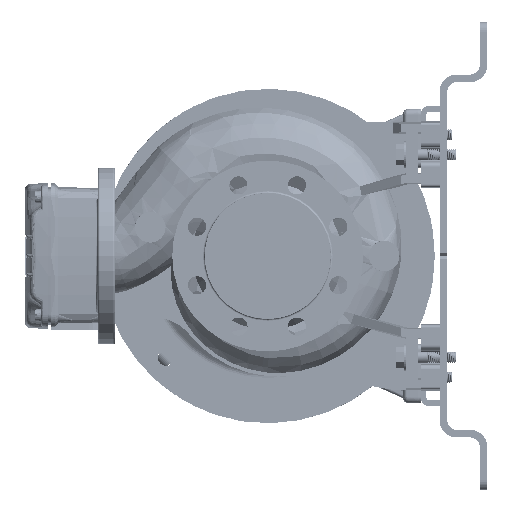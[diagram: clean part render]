
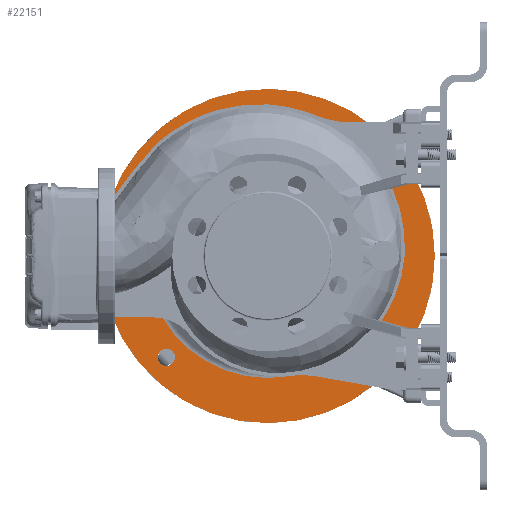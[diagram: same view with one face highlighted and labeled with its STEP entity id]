
A CAD part, left-side view. The second image highlights one B-rep face of the part: STEP entity #22151.
In plain terms, the highlighted planar face has unit normal (-1, 0, 0).
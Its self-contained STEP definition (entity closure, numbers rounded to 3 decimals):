
#1424 = CARTESIAN_POINT ( 'NONE',  ( 224., 106.066, 106.067 ) ) ;
#1925 = CARTESIAN_POINT ( 'NONE',  ( 224., 106.066, -106.112 ) ) ;
#2730 = EDGE_LOOP ( 'NONE', ( #262227, #16247 ) ) ;
#4688 = VERTEX_POINT ( 'NONE', #227987 ) ;
#7345 = ORIENTED_EDGE ( 'NONE', *, *, #45220, .T. ) ;
#12159 = DIRECTION ( 'NONE',  ( 0., 0., -1. ) ) ;
#12282 = ORIENTED_EDGE ( 'NONE', *, *, #203013, .T. ) ;
#12709 = EDGE_LOOP ( 'NONE', ( #136063, #72712 ) ) ;
#12722 = VERTEX_POINT ( 'NONE', #32267 ) ;
#15221 = AXIS2_PLACEMENT_3D ( 'NONE', #58890, #214252, #211404 ) ;
#15348 = AXIS2_PLACEMENT_3D ( 'NONE', #1424, #90849, #290144 ) ;
#16247 = ORIENTED_EDGE ( 'NONE', *, *, #21446, .F. ) ;
#16493 = DIRECTION ( 'NONE',  ( 1., 0., 0. ) ) ;
#17396 = AXIS2_PLACEMENT_3D ( 'NONE', #101310, #126205, #99899 ) ;
#19384 = EDGE_CURVE ( 'NONE', #269524, #93706, #190431, .T. ) ;
#21446 = EDGE_CURVE ( 'NONE', #150019, #203867, #109539, .T. ) ;
#22151 = ADVANCED_FACE ( 'NONE', ( #104179, #192152, #145231, #55920, #234703, #193624 ), #146713, .T. ) ;
#22726 = CIRCLE ( 'NONE', #205403, 9. ) ;
#24125 = EDGE_CURVE ( 'NONE', #91599, #165088, #159266, .T. ) ;
#32267 = CARTESIAN_POINT ( 'NONE',  ( 224., 106.066, 115.067 ) ) ;
#33125 = CARTESIAN_POINT ( 'NONE',  ( 224., -106.004, 97.067 ) ) ;
#34135 = CIRCLE ( 'NONE', #52960, 9. ) ;
#36209 = ORIENTED_EDGE ( 'NONE', *, *, #126699, .T. ) ;
#37116 = DIRECTION ( 'NONE',  ( 0., 0., -1. ) ) ;
#38570 = DIRECTION ( 'NONE',  ( 1., 0., 0. ) ) ;
#45220 = EDGE_CURVE ( 'NONE', #165088, #84668, #240030, .T. ) ;
#51596 = CIRCLE ( 'NONE', #252842, 23.5 ) ;
#52346 = ORIENTED_EDGE ( 'NONE', *, *, #24125, .T. ) ;
#52883 = CIRCLE ( 'NONE', #15348, 9. ) ;
#52960 = AXIS2_PLACEMENT_3D ( 'NONE', #89200, #180075, #204915 ) ;
#53069 = DIRECTION ( 'NONE',  ( 0., 0., -1. ) ) ;
#53924 = EDGE_LOOP ( 'NONE', ( #52346, #7345, #36209, #182512 ) ) ;
#55920 = FACE_BOUND ( 'NONE', #270302, .T. ) ;
#56254 = CARTESIAN_POINT ( 'NONE',  ( 224., 0.031, -175.022 ) ) ;
#56411 = AXIS2_PLACEMENT_3D ( 'NONE', #1925, #205623, #202759 ) ;
#57052 = VERTEX_POINT ( 'NONE', #158941 ) ;
#57251 = DIRECTION ( 'NONE',  ( 1., 0., 0. ) ) ;
#57273 = AXIS2_PLACEMENT_3D ( 'NONE', #146714, #187823, #53069 ) ;
#58890 = CARTESIAN_POINT ( 'NONE',  ( 224., -106.004, -106.112 ) ) ;
#61960 = CARTESIAN_POINT ( 'NONE',  ( 224., 0.031, -0.022 ) ) ;
#65018 = CARTESIAN_POINT ( 'NONE',  ( 224., 0.031, 127.657 ) ) ;
#68696 = ORIENTED_EDGE ( 'NONE', *, *, #165759, .T. ) ;
#72712 = ORIENTED_EDGE ( 'NONE', *, *, #107727, .T. ) ;
#72799 = CARTESIAN_POINT ( 'NONE',  ( 224., -109.967, -0.022 ) ) ;
#75634 = DIRECTION ( 'NONE',  ( 1., 0., 0. ) ) ;
#76517 = CIRCLE ( 'NONE', #240405, 9. ) ;
#83702 = DIRECTION ( 'NONE',  ( 0., 0., -1. ) ) ;
#84668 = VERTEX_POINT ( 'NONE', #65018 ) ;
#86876 = CARTESIAN_POINT ( 'NONE',  ( 224., 0.031, -0.022 ) ) ;
#89200 = CARTESIAN_POINT ( 'NONE',  ( 224., 106.066, -106.112 ) ) ;
#90801 = CARTESIAN_POINT ( 'NONE',  ( 224., -126.559, 16.619 ) ) ;
#90849 = DIRECTION ( 'NONE',  ( 1., 0., 0. ) ) ;
#91599 = VERTEX_POINT ( 'NONE', #251659 ) ;
#93706 = VERTEX_POINT ( 'NONE', #33125 ) ;
#99899 = DIRECTION ( 'NONE',  ( 0., 0., -1. ) ) ;
#100949 = VERTEX_POINT ( 'NONE', #248289 ) ;
#101310 = CARTESIAN_POINT ( 'NONE',  ( 224., -106.004, 106.067 ) ) ;
#102093 = EDGE_LOOP ( 'NONE', ( #12282, #68696 ) ) ;
#102098 = CARTESIAN_POINT ( 'NONE',  ( 224., 106.066, -97.112 ) ) ;
#104179 = FACE_BOUND ( 'NONE', #102093, .T. ) ;
#104713 = CIRCLE ( 'NONE', #287193, 127.679 ) ;
#107727 = EDGE_CURVE ( 'NONE', #4688, #156880, #76517, .T. ) ;
#109539 = CIRCLE ( 'NONE', #170381, 175. ) ;
#120246 = CARTESIAN_POINT ( 'NONE',  ( 224., -106.004, -97.112 ) ) ;
#121439 = AXIS2_PLACEMENT_3D ( 'NONE', #280063, #282957, #236196 ) ;
#124707 = DIRECTION ( 'NONE',  ( 0., 0., -1. ) ) ;
#126134 = CARTESIAN_POINT ( 'NONE',  ( 224., 0.031, -0.022 ) ) ;
#126205 = DIRECTION ( 'NONE',  ( -1., 0., 0. ) ) ;
#126699 = EDGE_CURVE ( 'NONE', #84668, #251002, #104713, .T. ) ;
#128970 = CIRCLE ( 'NONE', #199320, 9. ) ;
#135809 = AXIS2_PLACEMENT_3D ( 'NONE', #143832, #146727, #83702 ) ;
#136063 = ORIENTED_EDGE ( 'NONE', *, *, #183046, .T. ) ;
#141613 = CIRCLE ( 'NONE', #15221, 9. ) ;
#143832 = CARTESIAN_POINT ( 'NONE',  ( 224., 0.031, -0.022 ) ) ;
#144467 = DIRECTION ( 'NONE',  ( 0., 0., -1. ) ) ;
#145231 = FACE_OUTER_BOUND ( 'NONE', #2730, .T. ) ;
#146713 = PLANE ( 'NONE',  #121439 ) ;
#146714 = CARTESIAN_POINT ( 'NONE',  ( 224., 0.031, -0.022 ) ) ;
#146727 = DIRECTION ( 'NONE',  ( 1., 0., 0. ) ) ;
#148660 = CARTESIAN_POINT ( 'NONE',  ( 224., 0.031, 174.978 ) ) ;
#150019 = VERTEX_POINT ( 'NONE', #148660 ) ;
#156880 = VERTEX_POINT ( 'NONE', #120246 ) ;
#158941 = CARTESIAN_POINT ( 'NONE',  ( 224., 106.066, 97.067 ) ) ;
#159266 = CIRCLE ( 'NONE', #135809, 127.679 ) ;
#161913 = CARTESIAN_POINT ( 'NONE',  ( 224., -106.004, 106.067 ) ) ;
#162190 = DIRECTION ( 'NONE',  ( 1., 0., 0. ) ) ;
#165088 = VERTEX_POINT ( 'NONE', #200038 ) ;
#165759 = EDGE_CURVE ( 'NONE', #12722, #57052, #128970, .T. ) ;
#170381 = AXIS2_PLACEMENT_3D ( 'NONE', #126134, #57251, #124707 ) ;
#171140 = EDGE_LOOP ( 'NONE', ( #278637, #175476 ) ) ;
#173535 = EDGE_CURVE ( 'NONE', #100949, #260460, #34135, .T. ) ;
#175476 = ORIENTED_EDGE ( 'NONE', *, *, #19384, .F. ) ;
#180075 = DIRECTION ( 'NONE',  ( -1., 0., 0. ) ) ;
#182512 = ORIENTED_EDGE ( 'NONE', *, *, #246713, .T. ) ;
#183046 = EDGE_CURVE ( 'NONE', #156880, #4688, #141613, .T. ) ;
#186811 = DIRECTION ( 'NONE',  ( 0., 0., -1. ) ) ;
#187589 = CIRCLE ( 'NONE', #56411, 9. ) ;
#187823 = DIRECTION ( 'NONE',  ( 1., 0., 0. ) ) ;
#190431 = CIRCLE ( 'NONE', #17396, 9. ) ;
#192152 = FACE_BOUND ( 'NONE', #171140, .T. ) ;
#193624 = FACE_BOUND ( 'NONE', #53924, .T. ) ;
#197063 = EDGE_CURVE ( 'NONE', #203867, #150019, #274806, .T. ) ;
#199320 = AXIS2_PLACEMENT_3D ( 'NONE', #231095, #75634, #144467 ) ;
#200038 = CARTESIAN_POINT ( 'NONE',  ( 224., 0.031, -127.702 ) ) ;
#202759 = DIRECTION ( 'NONE',  ( 0., 0., 1. ) ) ;
#203013 = EDGE_CURVE ( 'NONE', #57052, #12722, #52883, .T. ) ;
#203867 = VERTEX_POINT ( 'NONE', #56254 ) ;
#204915 = DIRECTION ( 'NONE',  ( 0., 0., 1. ) ) ;
#205403 = AXIS2_PLACEMENT_3D ( 'NONE', #161913, #251335, #186811 ) ;
#205623 = DIRECTION ( 'NONE',  ( -1., 0., 0. ) ) ;
#207176 = ORIENTED_EDGE ( 'NONE', *, *, #209040, .F. ) ;
#209040 = EDGE_CURVE ( 'NONE', #260460, #100949, #187589, .T. ) ;
#211404 = DIRECTION ( 'NONE',  ( 0., 0., 1. ) ) ;
#214252 = DIRECTION ( 'NONE',  ( 1., 0., 0. ) ) ;
#216676 = ORIENTED_EDGE ( 'NONE', *, *, #173535, .F. ) ;
#223861 = DIRECTION ( 'NONE',  ( 0., 0., 1. ) ) ;
#227987 = CARTESIAN_POINT ( 'NONE',  ( 224., -106.004, -115.112 ) ) ;
#231095 = CARTESIAN_POINT ( 'NONE',  ( 224., 106.066, 106.067 ) ) ;
#234703 = FACE_BOUND ( 'NONE', #12709, .T. ) ;
#236196 = DIRECTION ( 'NONE',  ( 0., 0., 1. ) ) ;
#240030 = CIRCLE ( 'NONE', #57273, 127.679 ) ;
#240405 = AXIS2_PLACEMENT_3D ( 'NONE', #242126, #271219, #249298 ) ;
#242126 = CARTESIAN_POINT ( 'NONE',  ( 224., -106.004, -106.112 ) ) ;
#245636 = EDGE_CURVE ( 'NONE', #93706, #269524, #22726, .T. ) ;
#246713 = EDGE_CURVE ( 'NONE', #251002, #91599, #51596, .T. ) ;
#248289 = CARTESIAN_POINT ( 'NONE',  ( 224., 106.066, -115.112 ) ) ;
#249298 = DIRECTION ( 'NONE',  ( 0., 0., 1. ) ) ;
#251002 = VERTEX_POINT ( 'NONE', #90801 ) ;
#251335 = DIRECTION ( 'NONE',  ( -1., 0., 0. ) ) ;
#251659 = CARTESIAN_POINT ( 'NONE',  ( 224., -126.559, -16.664 ) ) ;
#252842 = AXIS2_PLACEMENT_3D ( 'NONE', #72799, #162190, #223861 ) ;
#254660 = CARTESIAN_POINT ( 'NONE',  ( 224., -106.004, 115.067 ) ) ;
#260460 = VERTEX_POINT ( 'NONE', #102098 ) ;
#262227 = ORIENTED_EDGE ( 'NONE', *, *, #197063, .F. ) ;
#269524 = VERTEX_POINT ( 'NONE', #254660 ) ;
#270302 = EDGE_LOOP ( 'NONE', ( #207176, #216676 ) ) ;
#271219 = DIRECTION ( 'NONE',  ( 1., 0., 0. ) ) ;
#274806 = CIRCLE ( 'NONE', #288909, 175. ) ;
#278637 = ORIENTED_EDGE ( 'NONE', *, *, #245636, .F. ) ;
#280063 = CARTESIAN_POINT ( 'NONE',  ( 224., 175.031, -0.022 ) ) ;
#282957 = DIRECTION ( 'NONE',  ( -1., 0., 0. ) ) ;
#287193 = AXIS2_PLACEMENT_3D ( 'NONE', #61960, #16493, #12159 ) ;
#288909 = AXIS2_PLACEMENT_3D ( 'NONE', #86876, #38570, #37116 ) ;
#290144 = DIRECTION ( 'NONE',  ( 0., 0., -1. ) ) ;
